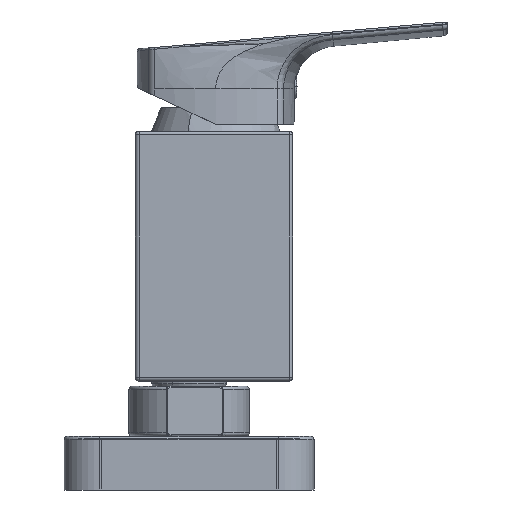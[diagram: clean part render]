
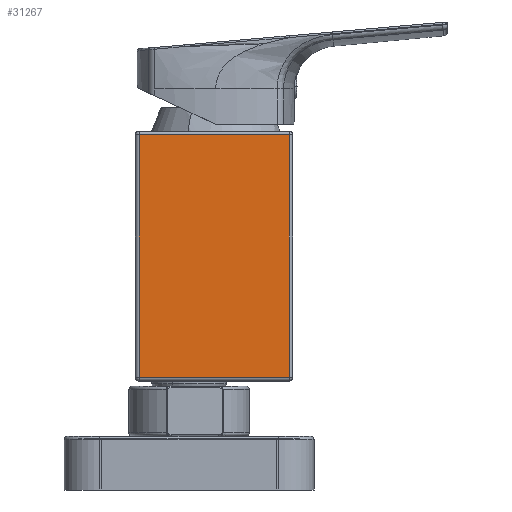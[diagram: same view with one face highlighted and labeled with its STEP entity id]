
A CAD part, left-side view. The second image highlights one B-rep face of the part: STEP entity #31267.
In plain terms, the highlighted planar face has unit normal (-1, 0, 0).
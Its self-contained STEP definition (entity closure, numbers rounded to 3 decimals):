
#11839=DIRECTION('',(0.,-1.,0.));
#11840=VECTOR('',#11839,42.);
#11841=CARTESIAN_POINT('',(-92.5,14.,69.));
#11842=LINE('',#11841,#11840);
#11843=DIRECTION('',(0.,0.,-1.));
#11844=VECTOR('',#11843,68.);
#11845=CARTESIAN_POINT('',(-92.5,-28.,69.));
#11846=LINE('',#11845,#11844);
#11847=DIRECTION('',(0.,1.,0.));
#11848=VECTOR('',#11847,42.);
#11849=CARTESIAN_POINT('',(-92.5,-28.,1.));
#11850=LINE('',#11849,#11848);
#11851=DIRECTION('',(0.,0.,-1.));
#11852=VECTOR('',#11851,68.);
#11853=CARTESIAN_POINT('',(-92.5,14.,69.));
#11854=LINE('',#11853,#11852);
#15601=CARTESIAN_POINT('',(-92.5,14.,69.));
#15603=VERTEX_POINT('',#15601);
#15608=CARTESIAN_POINT('',(-92.5,-28.,69.));
#15609=VERTEX_POINT('',#15608);
#15642=CARTESIAN_POINT('',(-92.5,-28.,1.));
#15643=CARTESIAN_POINT('',(-92.5,14.,1.));
#15644=VERTEX_POINT('',#15642);
#15645=VERTEX_POINT('',#15643);
#31256=CARTESIAN_POINT('',(-92.5,15.,0.));
#31257=DIRECTION('',(-1.,0.,0.));
#31258=DIRECTION('',(0.,-1.,0.));
#31259=AXIS2_PLACEMENT_3D('',#31256,#31257,#31258);
#31260=PLANE('',#31259);
#31261=ORIENTED_EDGE('',*,*,#23004,.T.);
#31262=ORIENTED_EDGE('',*,*,#23034,.T.);
#31263=ORIENTED_EDGE('',*,*,#23098,.T.);
#31264=ORIENTED_EDGE('',*,*,#23124,.F.);
#31265=EDGE_LOOP('',(#31261,#31262,#31263,#31264));
#31266=FACE_OUTER_BOUND('',#31265,.F.);
#31267=ADVANCED_FACE('',(#31266),#31260,.T.);
#23004=EDGE_CURVE('',#15603,#15609,#11842,.T.);
#23034=EDGE_CURVE('',#15609,#15644,#11846,.T.);
#23098=EDGE_CURVE('',#15644,#15645,#11850,.T.);
#23124=EDGE_CURVE('',#15603,#15645,#11854,.T.);
